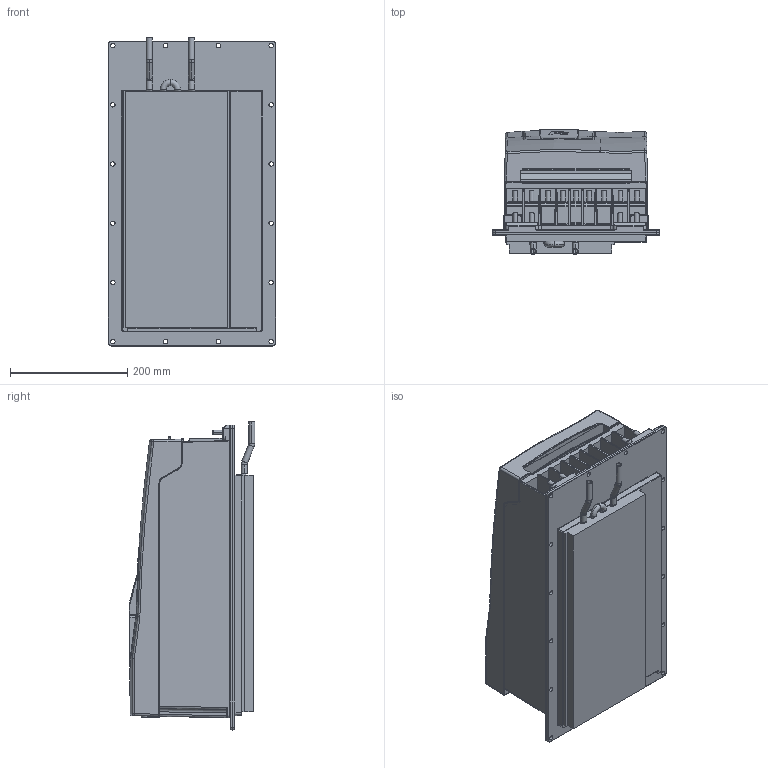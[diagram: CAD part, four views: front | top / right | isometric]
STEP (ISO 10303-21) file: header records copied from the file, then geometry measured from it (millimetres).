
FILE_DESCRIPTION (( 'STEP AP214' ), '1' );
FILE_NAME ('F6-6TW5-P001.STEP', '2020-12-09T15:08:39', ( '' ), ( '' ), 'SwSTEP 2.0', 'SolidWorks 2019', '' );
FILE_SCHEMA (( 'AUTOMOTIVE_DESIGN' ));
Length unit declared in the file: millimetre
Products named in the file (11): 10059762_000_Kundenmodell mit Geberbuchsen; 10062206_000; 10051076_000_Kundenmodell; 10059764_000_Blindabdeckung (Kundenmodell); 10027052_000_Geh„usebaugruppe F6-6 (Kundenmodell); 10059765_000; 10061794_000; 10061793_000_Deckelbaugruppe F6-6 (Kundenmodell); 10060787_000; 10046078_000_Leistungsteil F6-6 TW5 (Kundenmodell); F6-6TW5-P001
Assembly tree (10 placements, depth 4):
  F6-6TW5-P001
    10046078_000_Leistungsteil F6-6 TW5 (Kundenmodell)
      10062206_000
    10051076_000_Kundenmodell
      10059764_000_Blindabdeckung (Kundenmodell)
        10059765_000
      10059762_000_Kundenmodell mit Geberbuchsen
    10027052_000_Geh„usebaugruppe F6-6 (Kundenmodell)
      10061793_000_Deckelbaugruppe F6-6 (Kundenmodell)
        10061794_000
      10060787_000
Bounding box: 285 x 214.1 x 525.5 mm (x, y, z)
Volume: 20592005.3 mm3; surface area: 1265731.4 mm2
Topology: 12 solids, 25 shells, 3046 faces, 7783 edges, 4693 vertices
Faces by surface type: cylinder 1052, plane 991, bspline 636, torus 169, sphere 108, cone 90
Entity records: 105036 total; most frequent: CARTESIAN_POINT 36906, ORIENTED_EDGE 15246, DIRECTION 13054, EDGE_CURVE 7623, AXIS2_PLACEMENT_3D 4762, VERTEX_POINT 4691, VECTOR 3530, LINE 3530
